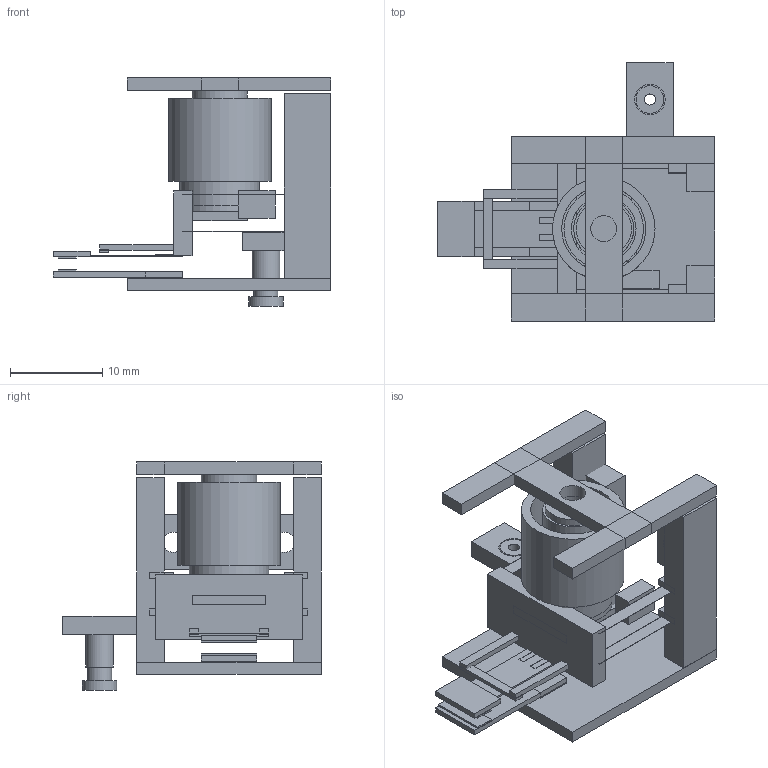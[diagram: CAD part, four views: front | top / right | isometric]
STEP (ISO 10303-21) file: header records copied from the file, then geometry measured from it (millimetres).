
FILE_DESCRIPTION(('Open CASCADE Model'),'2;1');
FILE_NAME('Open CASCADE Shape Model','2026-09-29T17:32:43',('Author'),( 'Open CASCADE'),'Open CASCADE STEP processor 7.8','Open CASCADE 7.8' ,'Unknown');
FILE_SCHEMA(('AUTOMOTIVE_DESIGN { 1 0 10303 214 1 1 1 1 }'));
Length unit declared in the file: millimetre
Products named in the file (41): micro_flexure_open; base; rear_post_0; roof_rail_0; rear_post_1; roof_rail_1; actuator_mount; magnet_envelope; core_envelope; mount_spacer; coil_envelope; coil_adapter; moving_bridge; moving_crosshead; lower_root; lower_blade; lower_pad; sensing_leaf; upper_nose; upper_pad; gauge_0; gauge_1; overtravel_rail_0; overtravel_rail_1; sensing_stop; guide_leaf_0; guide_rear_clamp_0; guide_leaf_1; guide_rear_clamp_1; guide_leaf_2; guide_rear_clamp_2; guide_leaf_3; guide_rear_clamp_3; vacuum_bracket; vacuum_stem; vacuum_lip; vacuum_neck; position_sensor_reserve; position_target; mount_ear_0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
Assembly tree (40 placements, depth 2):
  micro_flexure_open
    base
    rear_post_0
    roof_rail_0
    rear_post_1
    roof_rail_1
    actuator_mount
    magnet_envelope
    core_envelope
    mount_spacer
    coil_envelope
    coil_adapter
    moving_bridge
    moving_crosshead
    lower_root
    lower_blade
    lower_pad
    sensing_leaf
    upper_nose
    upper_pad
    gauge_0
    gauge_1
    overtravel_rail_0
    overtravel_rail_1
    sensing_stop
    guide_leaf_0
    guide_rear_clamp_0
    guide_leaf_1
    guide_rear_clamp_1
    guide_leaf_2
    guide_rear_clamp_2
    guide_leaf_3
    guide_rear_clamp_3
    vacuum_bracket
    vacuum_stem
    vacuum_lip
    vacuum_neck
    position_sensor_reserve
    position_target
    mount_ear_0
    mount_ear_1
Bounding box: 30 x 28 x 24.7 mm (x, y, z)
Volume: 2832.8 mm3; surface area: 5435.3 mm2
Topology: 40 solids, 40 shells, 226 faces, 438 edges, 292 vertices
Faces by surface type: plane 208, cylinder 18
Full cylindrical faces by diameter (mm): 1.2 x2, 2.2 x2, 2.5 x1, 2.6 x1, 2.8 x2, 3 x1, 3.3 x1, 3.7 x1, 6 x1, 6.5 x1, 7 x1, 8.6 x2, 9.1 x1, 11.1 x1
Entity records: 12371 total; most frequent: DIRECTION 1884, CARTESIAN_POINT 1873, LINE 1242, VECTOR 1242, ORIENTED_EDGE 876, PCURVE 876, DEFINITIONAL_REPRESENTATION 876, EDGE_CURVE 438
